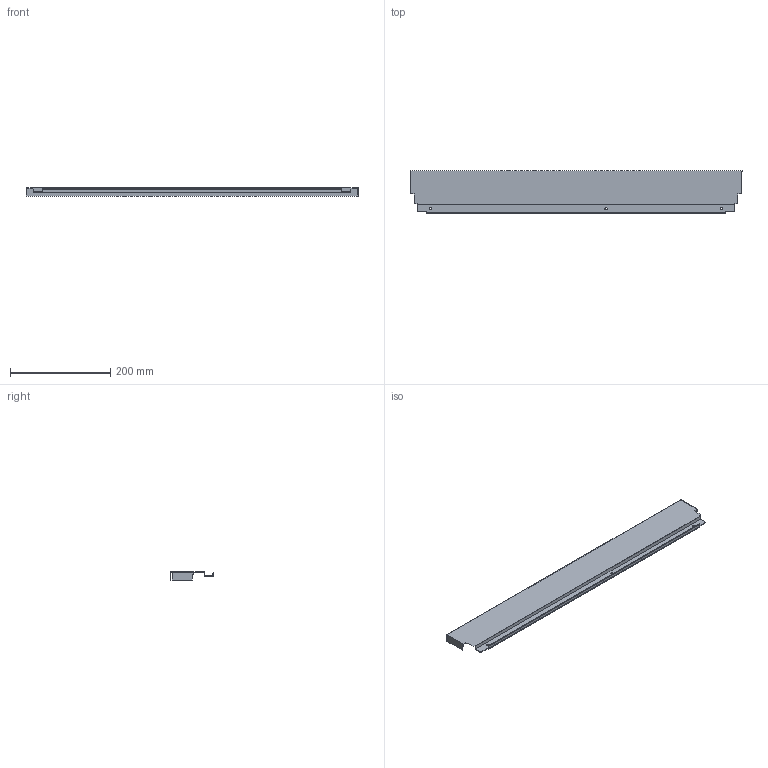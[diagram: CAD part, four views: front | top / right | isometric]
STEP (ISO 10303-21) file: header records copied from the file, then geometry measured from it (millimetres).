
FILE_DESCRIPTION (( 'STEP AP214' ), '1' );
FILE_NAME ('_DWD_XP Stahlrückwand_H86_KAB750_S19.step', '2010-07-08T12:10:36', ( 'grass' ), ( '' ), 'SwSTEP 2.0', 'SolidWorks 2010', '' );
FILE_SCHEMA (( 'AUTOMOTIVE_DESIGN' ));
Length unit declared in the file: millimetre
Products named in the file (1): _DWD_XP Stahlrückwand_H86_KAB750_S19
Bounding box: 663 x 85.79 x 16 mm (x, y, z)
Volume: 70855.8 mm3; surface area: 154083.7 mm2
Topology: 1 solids, 1 shells, 50 faces, 144 edges, 96 vertices
Faces by surface type: plane 44, cylinder 6
Entity records: 1666 total; most frequent: CARTESIAN_POINT 291, ORIENTED_EDGE 288, DIRECTION 258, EDGE_CURVE 144, VECTOR 132, LINE 132, VERTEX_POINT 96, AXIS2_PLACEMENT_3D 63
